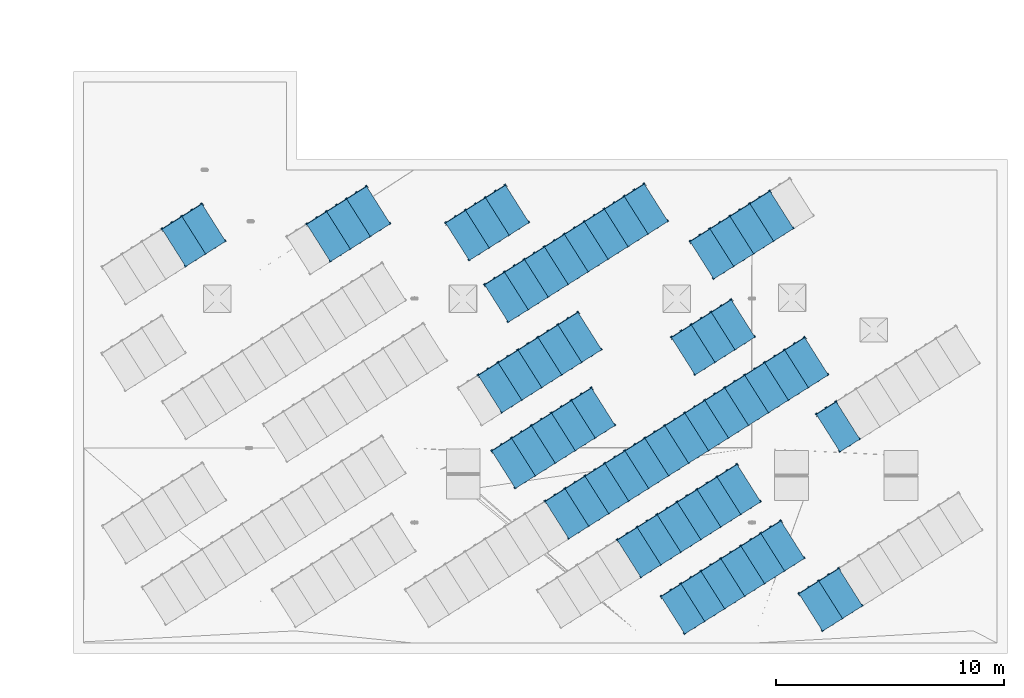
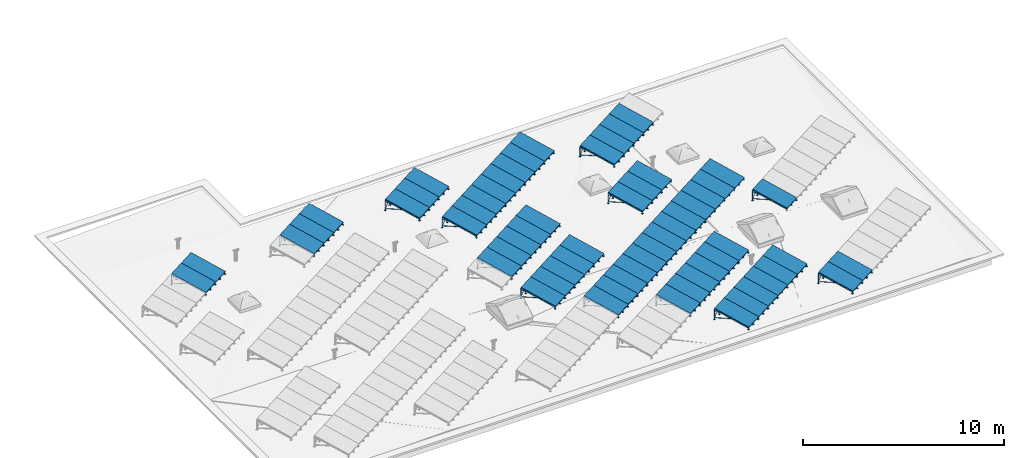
# One storey, part 2 of 9: 61 discrete accessories.
"""IFC2X3 building model written with IfcOpenShell, lengths in millimetres."""

from ifc_helpers import new_model, entity, si_unit, converted_unit, derived_unit, money_unit, direction, frame, origin_with_axes, place, context, subcontext, project, spatial, open_shell, faceted_brep, surface_model, source, transform, mapped, type_object, element, save


model = new_model("IFC2X3")

# Units and contexts
model_context = context("Model", 3, precision=0.01, world=origin_with_axes(), true_north=direction((0.0, 1.0)))
body_context = subcontext(model_context, "Body", "Model", "MODEL_VIEW")
ifc_project = project(units=[si_unit("LENGTHUNIT", "METRE", prefix="MILLI"), si_unit("AREAUNIT", "SQUARE_METRE"), si_unit("VOLUMEUNIT", "CUBIC_METRE"), converted_unit("PLANEANGLEUNIT", "DEGREE", entity("IfcPlaneAngleMeasure", 0.0174532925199), si_unit("PLANEANGLEUNIT", "RADIAN"), dimensions=[0, 0, 0, 0, 0, 0, 0]), si_unit("SOLIDANGLEUNIT", "STERADIAN"), money_unit("EUR"), converted_unit("TIMEUNIT", "Year", entity("IfcTimeMeasure", 31556926.0), si_unit("TIMEUNIT", "SECOND"), dimensions=[0, 0, 1, 0, 0, 0, 0]), si_unit("MASSUNIT", "GRAM", prefix="KILO"), si_unit("THERMODYNAMICTEMPERATUREUNIT", "DEGREE_CELSIUS"), si_unit("LUMINOUSINTENSITYUNIT", "LUMEN"), si_unit("ENERGYUNIT", "JOULE", prefix="MEGA"), derived_unit("THERMALCONDUCTANCEUNIT", [(si_unit("POWERUNIT", "WATT"), 1), (si_unit("LENGTHUNIT", "METRE"), -1), (si_unit("THERMODYNAMICTEMPERATUREUNIT", "KELVIN"), -1)]), derived_unit("SPECIFICHEATCAPACITYUNIT", [(si_unit("ENERGYUNIT", "JOULE"), 1), (si_unit("MASSUNIT", "GRAM", prefix="KILO"), -1), (si_unit("THERMODYNAMICTEMPERATUREUNIT", "KELVIN"), -1)]), derived_unit("MASSDENSITYUNIT", [(si_unit("MASSUNIT", "GRAM", prefix="KILO"), 1), (si_unit("VOLUMEUNIT", "CUBIC_METRE"), -1)])], contexts=[model_context])

# Site, building, storey
site_placement = place(None, origin_with_axes())
site = spatial("IfcSite", under=ifc_project, at=site_placement, Name="KIRDE 14, ELVA", CompositionType="ELEMENT")
building_placement = place(site_placement, origin_with_axes())
building = spatial("IfcBuilding", under=site, at=building_placement, Name="PPA ja Päästeameti ühishoone", CompositionType="ELEMENT")
storey_placement = place(building_placement, frame((0.0, 0.0, 7700.0), z_axis=(0.0, 0.0, 1.0), x_axis=(1.0, 0.0, 0.0)))
storey = spatial("IfcBuildingStorey", under=building, at=storey_placement, Name="Katusekorrus", CompositionType="ELEMENT", Elevation=7700.0)

# Discrete accessories
discrete_accessory_type = type_object("IfcDiscreteAccessoryType", Name="Solar Collector Flat Plate 24")
shared_shape = source(origin_with_axes(), body_context, "Body", "SurfaceModel", [
    surface_model("IfcShellBasedSurfaceModel", [(0.0, 1835.04380685, 600.253058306), (50.0, 1835.04380685, 600.253058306), (50.0, 1825.4978653, 604.20711676), (0.0, 1825.4978653, 604.20711676), (0.0, 1844.58974839, 604.20711676), (50.0, 1844.58974839, 604.20711676), (50.0, 1821.54380685, 613.753058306), (0.0, 1821.54380685, 613.753058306), (0.0, 1848.54380685, 613.753058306), (50.0, 1848.54380685, 613.753058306), (50.0, 1825.4978653, 623.298999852), (0.0, 1825.4978653, 623.298999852), (0.0, 1844.58974839, 623.298999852), (50.0, 1844.58974839, 623.298999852), (50.0, 1835.04380685, 627.253058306), (0.0, 1835.04380685, 627.253058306)], [open_shell([[[0, 1, 2, 3]], [[4, 5, 1, 0]], [[3, 2, 6, 7]], [[8, 9, 5, 4]], [[7, 6, 10, 11]], [[12, 13, 9, 8]], [[11, 10, 14, 15]], [[15, 14, 13, 12]]])]),
    surface_model("IfcShellBasedSurfaceModel", [(-1035.0, 1835.04380685, 627.253058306), (-1085.0, 1835.04380685, 627.253058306), (-1085.0, 1825.4978653, 623.298999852), (-1035.0, 1825.4978653, 623.298999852), (-1035.0, 1844.58974839, 623.298999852), (-1085.0, 1844.58974839, 623.298999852), (-1085.0, 1821.54380685, 613.753058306), (-1035.0, 1821.54380685, 613.753058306), (-1035.0, 1848.54380685, 613.753058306), (-1085.0, 1848.54380685, 613.753058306), (-1085.0, 1825.4978653, 604.20711676), (-1035.0, 1825.4978653, 604.20711676), (-1035.0, 1844.58974839, 604.20711676), (-1085.0, 1844.58974839, 604.20711676), (-1085.0, 1835.04380685, 600.253058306), (-1035.0, 1835.04380685, 600.253058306)], [open_shell([[[0, 1, 2, 3]], [[4, 5, 1, 0]], [[3, 2, 6, 7]], [[8, 9, 5, 4]], [[7, 6, 10, 11]], [[12, 13, 9, 8]], [[11, 10, 14, 15]], [[15, 14, 13, 12]]])]),
    faceted_brep([(0.0, -2.6969384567, 96.4852813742), (-1035.0, -2.6969384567, 96.4852813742), (-1035.0, 28.6956508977, 104.89690034), (0.0, 28.6956508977, 104.89690034), (0.0, -15.1202526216, 142.849721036), (-1035.0, -15.1202526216, 142.849721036), (-1035.0, 16.2723367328, 151.261340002), (0.0, 16.2723367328, 151.261340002)], [[[0, 1, 2, 3]], [[4, 5, 1, 0]], [[1, 5, 6, 2]], [[3, 2, 6, 7]], [[0, 3, 7, 4]], [[7, 6, 5, 4]]]),
    faceted_brep([(0.0, 1906.4554572, 608.041124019), (-1035.0, 1906.4554572, 608.041124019), (-1035.0, 1937.84804656, 616.452742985), (0.0, 1937.84804656, 616.452742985), (0.0, 1894.03214304, 654.405563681), (-1035.0, 1894.03214304, 654.405563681), (-1035.0, 1925.42473239, 662.817182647), (0.0, 1925.42473239, 662.817182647)], [[[0, 1, 2, 3]], [[4, 5, 1, 0]], [[1, 5, 6, 2]], [[3, 2, 6, 7]], [[0, 3, 7, 4]], [[7, 6, 5, 4]]]),
    faceted_brep([(-1002.5, 1925.42473239, 662.817182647), (-32.5, 1925.42473239, 662.817182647), (0.0, 1925.42473239, 662.817182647), (0.0, -15.1202526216, 142.849721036), (-1035.0, -15.1202526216, 142.849721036), (-1035.0, 1925.42473239, 662.817182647), (-1002.5, 1894.03214304, 654.405563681), (-1002.5, 16.2723367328, 151.261340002), (-32.5, 16.2723367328, 151.261340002), (-32.5, 1894.03214304, 654.405563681), (-1035.0, 1918.69543722, 687.931254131), (0.0, 1918.69543722, 687.931254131), (0.0, -21.8495477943, 167.96379252), (-1035.0, -21.8495477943, 167.96379252), (-1002.5, 1906.4554572, 608.041124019), (-1002.5, 28.6956508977, 104.89690034), (-32.5, 28.6956508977, 104.89690034), (-32.5, 1906.4554572, 608.041124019), (-70.0, 45.7652600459, 186.081125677), (-965.0, 45.7652600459, 186.081125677), (-965.0, 1851.08062938, 669.813920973), (-70.0, 1851.08062938, 669.813920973), (-70.0, 58.1885742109, 139.716686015), (-965.0, 58.1885742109, 139.716686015), (-965.0, 1863.50394355, 623.449481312), (-70.0, 1863.50394355, 623.449481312)], [[[0, 1, 2, 3, 4, 5], [6, 7, 8, 9]], [[0, 5, 10, 11, 2, 1]], [[11, 12, 3, 2]], [[13, 4, 3, 12]], [[10, 5, 4, 13]], [[14, 15, 7, 6]], [[15, 16, 8, 7]], [[9, 8, 16, 17]], [[6, 9, 17, 14]], [[13, 12, 11, 10], [18, 19, 20, 21]], [[17, 16, 15, 14]], [[18, 22, 23, 19]], [[19, 23, 24, 20]], [[20, 24, 25, 21]], [[21, 25, 22, 18]], [[24, 23, 22, 25]]]),
    faceted_brep([(-70.0, 47.0593552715, 181.251496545), (-70.0, 45.7652600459, 186.081125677), (-965.0, 45.7652600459, 186.081125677), (-965.0, 47.0593552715, 181.251496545), (-70.0, 1852.37472461, 664.984291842), (-70.0, 1851.08062938, 669.813920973), (-965.0, 1851.08062938, 669.813920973), (-965.0, 1852.37472461, 664.984291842)], [[[0, 1, 2, 3]], [[4, 5, 1, 0]], [[1, 5, 6, 2]], [[3, 2, 6, 7]], [[0, 3, 7, 4]], [[7, 6, 5, 4]]]),
    faceted_brep([(-32.5, 1823.3524639, 620.503058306), (-32.5, 1831.54974974, 626.793056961), (-32.5, 1841.79380685, 625.444401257), (-32.5, 1848.0838055, 617.247115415), (-32.5, 1846.7351498, 607.003058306), (-32.5, 1838.53786396, 600.713059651), (-32.5, 1828.29380685, 602.061715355), (-32.5, 1822.00380819, 610.259001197), (0.0, 1823.3524639, 620.503058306), (0.0, 1831.54974974, 626.793056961), (0.0, 1841.79380685, 625.444401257), (0.0, 1848.0838055, 617.247115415), (0.0, 1846.7351498, 607.003058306), (0.0, 1838.53786396, 600.713059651), (0.0, 1828.29380685, 602.061715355), (0.0, 1822.00380819, 610.259001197)], [[[0, 1, 2, 3, 4, 5, 6, 7]], [[0, 8, 9, 1]], [[1, 9, 10, 2]], [[2, 10, 11, 3]], [[3, 11, 12, 4]], [[4, 12, 13, 5]], [[5, 13, 14, 6]], [[6, 14, 15, 7]], [[7, 15, 8, 0]], [[8, 15, 14, 13, 12, 11, 10, 9]]]),
    faceted_brep([(-1002.5, 1823.3524639, 620.503058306), (-1002.5, 1822.00380819, 610.259001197), (-1002.5, 1828.29380685, 602.061715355), (-1002.5, 1838.53786396, 600.713059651), (-1002.5, 1846.7351498, 607.003058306), (-1002.5, 1848.0838055, 617.247115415), (-1002.5, 1841.79380685, 625.444401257), (-1002.5, 1831.54974974, 626.793056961), (-1035.0, 1823.3524639, 620.503058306), (-1035.0, 1822.00380819, 610.259001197), (-1035.0, 1828.29380685, 602.061715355), (-1035.0, 1838.53786396, 600.713059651), (-1035.0, 1846.7351498, 607.003058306), (-1035.0, 1848.0838055, 617.247115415), (-1035.0, 1841.79380685, 625.444401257), (-1035.0, 1831.54974974, 626.793056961)], [[[0, 1, 2, 3, 4, 5, 6, 7]], [[1, 0, 8, 9]], [[2, 1, 9, 10]], [[3, 2, 10, 11]], [[4, 3, 11, 12]], [[5, 4, 12, 13]], [[6, 5, 13, 14]], [[7, 6, 14, 15]], [[0, 7, 15, 8]], [[8, 15, 14, 13, 12, 11, 10, 9]]]),
    faceted_brep([(-70.0, 58.7062123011, 137.784834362), (-70.0, 54.0474694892, 155.171499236), (-965.0, 54.0474694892, 155.171499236), (-965.0, 58.7062123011, 137.784834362), (-70.0, 1864.02158164, 621.517629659), (-70.0, 1859.36283882, 638.904294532), (-965.0, 1859.36283882, 638.904294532), (-140.0, 121.662277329, 173.288832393), (-895.0, 121.662277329, 173.288832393), (-895.0, 1791.74803098, 620.786961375), (-140.0, 1791.74803098, 620.786961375), (-965.0, 1864.02158164, 621.517629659), (-140.0, 126.321020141, 155.90216752), (-140.0, 1796.4067738, 603.400296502), (-895.0, 1796.4067738, 603.400296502), (-895.0, 126.321020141, 155.90216752)], [[[0, 1, 2, 3]], [[4, 5, 1, 0]], [[1, 5, 6, 2], [7, 8, 9, 10]], [[3, 2, 6, 11]], [[0, 3, 11, 4], [12, 13, 14, 15]], [[11, 6, 5, 4]], [[15, 8, 7, 12]], [[14, 9, 8, 15]], [[13, 10, 9, 14]], [[12, 7, 10, 13]]]),
    surface_model("IfcShellBasedSurfaceModel", [(-140.0, 125.026924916, 160.731796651), (-895.0, 125.026924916, 160.731796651), (-895.0, 1795.11267857, 608.229925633), (-140.0, 1795.11267857, 608.229925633)], [open_shell([[[0, 1, 2, 3]]])]),
    faceted_brep([(0.0, 1944.05970364, 593.270523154), (0.0, 3.51471862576, 73.3030615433), (-24.0, 3.51471862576, 73.3030615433), (-24.0, 1944.05970364, 593.270523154), (0.0, 1937.84804656, 616.452742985), (0.0, -2.6969384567, 96.4852813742), (-24.0, -2.6969384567, 96.4852813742), (-24.0, 1937.84804656, 616.452742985)], [[[0, 1, 2, 3]], [[4, 5, 1, 0]], [[1, 5, 6, 2]], [[3, 2, 6, 7]], [[0, 3, 7, 4]], [[7, 6, 5, 4]]]),
    faceted_brep([(-505.5, 1944.05970364, 593.270523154), (-505.5, 3.51471862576, 73.3030615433), (-529.5, 3.51471862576, 73.3030615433), (-529.5, 1944.05970364, 593.270523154), (-505.5, 1937.84804656, 616.452742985), (-505.5, -2.6969384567, 96.4852813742), (-529.5, -2.6969384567, 96.4852813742), (-529.5, 1937.84804656, 616.452742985)], [[[0, 1, 2, 3]], [[4, 5, 1, 0]], [[1, 5, 6, 2]], [[3, 2, 6, 7]], [[0, 3, 7, 4]], [[7, 6, 5, 4]]]),
    faceted_brep([(-1011.0, 1944.05970364, 593.270523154), (-1011.0, 3.51471862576, 73.3030615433), (-1035.0, 3.51471862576, 73.3030615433), (-1035.0, 1944.05970364, 593.270523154), (-1011.0, 1937.84804656, 616.452742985), (-1011.0, -2.6969384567, 96.4852813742), (-1035.0, -2.6969384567, 96.4852813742), (-1035.0, 1937.84804656, 616.452742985)], [[[0, 1, 2, 3]], [[4, 5, 1, 0]], [[1, 5, 6, 2]], [[3, 2, 6, 7]], [[0, 3, 7, 4]], [[7, 6, 5, 4]]]),
    faceted_brep([(0.0, 24.0, 52.0), (0.0, 24.0, 88.0), (5.0, 24.0, 88.0), (5.0, 24.0, 5.0), (-29.0, 24.0, 5.0), (-29.0, 24.0, 88.0), (-24.0, 24.0, 88.0), (-24.0, 24.0, 52.0), (0.0, 0.0, 52.0), (0.0, 0.0, 88.0), (0.0, 3.51471862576, 96.4852813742), (0.0, 12.0, 100.0), (0.0, 20.4852813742, 96.4852813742), (5.0, 20.4852813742, 96.4852813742), (5.0, 12.0, 100.0), (5.0, 3.51471862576, 96.4852813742), (5.0, 0.0, 88.0), (5.0, 0.0, 5.0), (-29.0, 0.0, 5.0), (-29.0, 12.0, 100.0), (-29.0, 20.4852813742, 96.4852813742), (-29.0, 0.0, 88.0), (-29.0, 3.51471862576, 96.4852813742), (-24.0, 20.4852813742, 96.4852813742), (-24.0, 12.0, 100.0), (-24.0, 3.51471862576, 96.4852813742), (-24.0, 0.0, 88.0), (-24.0, 0.0, 52.0)], [[[0, 1, 2, 3, 4, 5, 6, 7]], [[0, 8, 9, 10, 11, 12, 1]], [[12, 13, 2, 1]], [[13, 14, 15, 16, 17, 3, 2]], [[3, 17, 18, 4]], [[19, 20, 5, 4, 18, 21, 22]], [[6, 5, 20, 23]], [[23, 24, 25, 26, 27, 7, 6]], [[7, 27, 8, 0]], [[8, 27, 26, 21, 18, 17, 16, 9]], [[9, 16, 15, 10]], [[10, 15, 14, 11]], [[11, 14, 13, 12]], [[23, 20, 19, 24]], [[25, 22, 21, 26]], [[24, 19, 22, 25]]]),
    faceted_brep([(38.0, -38.0, 0.0), (38.0, -38.0, 5.0), (-62.0, -38.0, 5.0), (-62.0, -38.0, 0.0), (38.0, 62.0, 0.0), (38.0, 62.0, 5.0), (-62.0, 62.0, 5.0), (-62.0, 62.0, 0.0)], [[[0, 1, 2, 3]], [[4, 5, 1, 0]], [[1, 5, 6, 2]], [[3, 2, 6, 7]], [[0, 3, 7, 4]], [[7, 6, 5, 4]]]),
    faceted_brep([(-505.5, 24.0, 52.0), (-505.5, 24.0, 88.0), (-500.5, 24.0, 88.0), (-500.5, 24.0, 5.0), (-534.5, 24.0, 5.0), (-534.5, 24.0, 88.0), (-529.5, 24.0, 88.0), (-529.5, 24.0, 52.0), (-505.5, 0.0, 52.0), (-505.5, 0.0, 88.0), (-505.5, 3.51471862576, 96.4852813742), (-505.5, 12.0, 100.0), (-505.5, 20.4852813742, 96.4852813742), (-500.5, 20.4852813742, 96.4852813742), (-500.5, 12.0, 100.0), (-500.5, 3.51471862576, 96.4852813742), (-500.5, 0.0, 88.0), (-500.5, 0.0, 5.0), (-534.5, 0.0, 5.0), (-534.5, 12.0, 100.0), (-534.5, 20.4852813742, 96.4852813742), (-534.5, 0.0, 88.0), (-534.5, 3.51471862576, 96.4852813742), (-529.5, 20.4852813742, 96.4852813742), (-529.5, 12.0, 100.0), (-529.5, 3.51471862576, 96.4852813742), (-529.5, 0.0, 88.0), (-529.5, 0.0, 52.0)], [[[0, 1, 2, 3, 4, 5, 6, 7]], [[0, 8, 9, 10, 11, 12, 1]], [[12, 13, 2, 1]], [[13, 14, 15, 16, 17, 3, 2]], [[3, 17, 18, 4]], [[19, 20, 5, 4, 18, 21, 22]], [[6, 5, 20, 23]], [[23, 24, 25, 26, 27, 7, 6]], [[7, 27, 8, 0]], [[8, 27, 26, 21, 18, 17, 16, 9]], [[9, 16, 15, 10]], [[10, 15, 14, 11]], [[11, 14, 13, 12]], [[23, 20, 19, 24]], [[25, 22, 21, 26]], [[24, 19, 22, 25]]]),
    faceted_brep([(-467.5, -38.0, 0.0), (-467.5, -38.0, 5.0), (-567.5, -38.0, 5.0), (-567.5, -38.0, 0.0), (-467.5, 62.0, 0.0), (-467.5, 62.0, 5.0), (-567.5, 62.0, 5.0), (-567.5, 62.0, 0.0)], [[[0, 1, 2, 3]], [[4, 5, 1, 0]], [[1, 5, 6, 2]], [[3, 2, 6, 7]], [[0, 3, 7, 4]], [[7, 6, 5, 4]]]),
    faceted_brep([(-1011.0, 24.0, 52.0), (-1011.0, 24.0, 88.0), (-1006.0, 24.0, 88.0), (-1006.0, 24.0, 5.0), (-1040.0, 24.0, 5.0), (-1040.0, 24.0, 88.0), (-1035.0, 24.0, 88.0), (-1035.0, 24.0, 52.0), (-1011.0, 0.0, 52.0), (-1011.0, 0.0, 88.0), (-1011.0, 3.51471862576, 96.4852813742), (-1011.0, 12.0, 100.0), (-1011.0, 20.4852813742, 96.4852813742), (-1006.0, 20.4852813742, 96.4852813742), (-1006.0, 12.0, 100.0), (-1006.0, 3.51471862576, 96.4852813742), (-1006.0, 0.0, 88.0), (-1006.0, 0.0, 5.0), (-1040.0, 0.0, 5.0), (-1040.0, 12.0, 100.0), (-1040.0, 20.4852813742, 96.4852813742), (-1040.0, 0.0, 88.0), (-1040.0, 3.51471862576, 96.4852813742), (-1035.0, 20.4852813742, 96.4852813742), (-1035.0, 12.0, 100.0), (-1035.0, 3.51471862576, 96.4852813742), (-1035.0, 0.0, 88.0), (-1035.0, 0.0, 52.0)], [[[0, 1, 2, 3, 4, 5, 6, 7]], [[0, 8, 9, 10, 11, 12, 1]], [[12, 13, 2, 1]], [[13, 14, 15, 16, 17, 3, 2]], [[3, 17, 18, 4]], [[19, 20, 5, 4, 18, 21, 22]], [[6, 5, 20, 23]], [[23, 24, 25, 26, 27, 7, 6]], [[7, 27, 8, 0]], [[8, 27, 26, 21, 18, 17, 16, 9]], [[9, 16, 15, 10]], [[10, 15, 14, 11]], [[11, 14, 13, 12]], [[23, 20, 19, 24]], [[25, 22, 21, 26]], [[24, 19, 22, 25]]]),
    faceted_brep([(-973.0, -38.0, 0.0), (-973.0, -38.0, 5.0), (-1073.0, -38.0, 5.0), (-1073.0, -38.0, 0.0), (-973.0, 62.0, 0.0), (-973.0, 62.0, 5.0), (-1073.0, 62.0, 5.0), (-1073.0, 62.0, 0.0)], [[[0, 1, 2, 3]], [[4, 5, 1, 0]], [[1, 5, 6, 2]], [[3, 2, 6, 7]], [[0, 3, 7, 4]], [[7, 6, 5, 4]]]),
    faceted_brep([(0.0, 1941.36276518, 565.755804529), (0.0, 1941.36276518, 601.755804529), (5.0, 1941.36276518, 601.755804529), (5.0, 1941.36276518, 5.0), (-29.0, 1941.36276518, 5.0), (-29.0, 1941.36276518, 601.755804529), (-24.0, 1941.36276518, 601.755804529), (-24.0, 1941.36276518, 565.755804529), (0.0, 1917.36276518, 565.755804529), (0.0, 1917.36276518, 601.755804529), (0.0, 1920.87748381, 610.241085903), (0.0, 1929.36276518, 613.755804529), (0.0, 1937.84804656, 610.241085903), (5.0, 1937.84804656, 610.241085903), (5.0, 1929.36276518, 613.755804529), (5.0, 1920.87748381, 610.241085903), (5.0, 1917.36276518, 601.755804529), (5.0, 1917.36276518, 5.0), (-29.0, 1917.36276518, 5.0), (-29.0, 1929.36276518, 613.755804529), (-29.0, 1937.84804656, 610.241085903), (-29.0, 1917.36276518, 601.755804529), (-29.0, 1920.87748381, 610.241085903), (-24.0, 1937.84804656, 610.241085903), (-24.0, 1929.36276518, 613.755804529), (-24.0, 1920.87748381, 610.241085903), (-24.0, 1917.36276518, 601.755804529), (-24.0, 1917.36276518, 565.755804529)], [[[0, 1, 2, 3, 4, 5, 6, 7]], [[0, 8, 9, 10, 11, 12, 1]], [[12, 13, 2, 1]], [[13, 14, 15, 16, 17, 3, 2]], [[3, 17, 18, 4]], [[19, 20, 5, 4, 18, 21, 22]], [[6, 5, 20, 23]], [[23, 24, 25, 26, 27, 7, 6]], [[7, 27, 8, 0]], [[8, 27, 26, 21, 18, 17, 16, 9]], [[9, 16, 15, 10]], [[10, 15, 14, 11]], [[11, 14, 13, 12]], [[23, 20, 19, 24]], [[25, 22, 21, 26]], [[24, 19, 22, 25]]]),
    faceted_brep([(38.0, 1879.36276518, 0.0), (38.0, 1879.36276518, 5.0), (-62.0, 1879.36276518, 5.0), (-62.0, 1879.36276518, 0.0), (38.0, 1979.36276518, 0.0), (38.0, 1979.36276518, 5.0), (-62.0, 1979.36276518, 5.0), (-62.0, 1979.36276518, 0.0)], [[[0, 1, 2, 3]], [[4, 5, 1, 0]], [[1, 5, 6, 2]], [[3, 2, 6, 7]], [[0, 3, 7, 4]], [[7, 6, 5, 4]]]),
    faceted_brep([(-505.5, 1941.36276518, 565.755804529), (-505.5, 1941.36276518, 601.755804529), (-500.5, 1941.36276518, 601.755804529), (-500.5, 1941.36276518, 5.0), (-534.5, 1941.36276518, 5.0), (-534.5, 1941.36276518, 601.755804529), (-529.5, 1941.36276518, 601.755804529), (-529.5, 1941.36276518, 565.755804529), (-505.5, 1917.36276518, 565.755804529), (-505.5, 1917.36276518, 601.755804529), (-505.5, 1920.87748381, 610.241085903), (-505.5, 1929.36276518, 613.755804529), (-505.5, 1937.84804656, 610.241085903), (-500.5, 1937.84804656, 610.241085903), (-500.5, 1929.36276518, 613.755804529), (-500.5, 1920.87748381, 610.241085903), (-500.5, 1917.36276518, 601.755804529), (-500.5, 1917.36276518, 5.0), (-534.5, 1917.36276518, 5.0), (-534.5, 1929.36276518, 613.755804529), (-534.5, 1937.84804656, 610.241085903), (-534.5, 1917.36276518, 601.755804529), (-534.5, 1920.87748381, 610.241085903), (-529.5, 1937.84804656, 610.241085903), (-529.5, 1929.36276518, 613.755804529), (-529.5, 1920.87748381, 610.241085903), (-529.5, 1917.36276518, 601.755804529), (-529.5, 1917.36276518, 565.755804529)], [[[0, 1, 2, 3, 4, 5, 6, 7]], [[0, 8, 9, 10, 11, 12, 1]], [[12, 13, 2, 1]], [[13, 14, 15, 16, 17, 3, 2]], [[3, 17, 18, 4]], [[19, 20, 5, 4, 18, 21, 22]], [[6, 5, 20, 23]], [[23, 24, 25, 26, 27, 7, 6]], [[7, 27, 8, 0]], [[8, 27, 26, 21, 18, 17, 16, 9]], [[9, 16, 15, 10]], [[10, 15, 14, 11]], [[11, 14, 13, 12]], [[23, 20, 19, 24]], [[25, 22, 21, 26]], [[24, 19, 22, 25]]]),
    faceted_brep([(-467.5, 1879.36276518, 0.0), (-467.5, 1879.36276518, 5.0), (-567.5, 1879.36276518, 5.0), (-567.5, 1879.36276518, 0.0), (-467.5, 1979.36276518, 0.0), (-467.5, 1979.36276518, 5.0), (-567.5, 1979.36276518, 5.0), (-567.5, 1979.36276518, 0.0)], [[[0, 1, 2, 3]], [[4, 5, 1, 0]], [[1, 5, 6, 2]], [[3, 2, 6, 7]], [[0, 3, 7, 4]], [[7, 6, 5, 4]]]),
    faceted_brep([(-1011.0, 1941.36276518, 565.755804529), (-1011.0, 1941.36276518, 601.755804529), (-1006.0, 1941.36276518, 601.755804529), (-1006.0, 1941.36276518, 5.0), (-1040.0, 1941.36276518, 5.0), (-1040.0, 1941.36276518, 601.755804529), (-1035.0, 1941.36276518, 601.755804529), (-1035.0, 1941.36276518, 565.755804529), (-1011.0, 1917.36276518, 565.755804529), (-1011.0, 1917.36276518, 601.755804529), (-1011.0, 1920.87748381, 610.241085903), (-1011.0, 1929.36276518, 613.755804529), (-1011.0, 1937.84804656, 610.241085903), (-1006.0, 1937.84804656, 610.241085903), (-1006.0, 1929.36276518, 613.755804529), (-1006.0, 1920.87748381, 610.241085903), (-1006.0, 1917.36276518, 601.755804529), (-1006.0, 1917.36276518, 5.0), (-1040.0, 1917.36276518, 5.0), (-1040.0, 1929.36276518, 613.755804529), (-1040.0, 1937.84804656, 610.241085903), (-1040.0, 1917.36276518, 601.755804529), (-1040.0, 1920.87748381, 610.241085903), (-1035.0, 1937.84804656, 610.241085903), (-1035.0, 1929.36276518, 613.755804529), (-1035.0, 1920.87748381, 610.241085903), (-1035.0, 1917.36276518, 601.755804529), (-1035.0, 1917.36276518, 565.755804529)], [[[0, 1, 2, 3, 4, 5, 6, 7]], [[0, 8, 9, 10, 11, 12, 1]], [[12, 13, 2, 1]], [[13, 14, 15, 16, 17, 3, 2]], [[3, 17, 18, 4]], [[19, 20, 5, 4, 18, 21, 22]], [[6, 5, 20, 23]], [[23, 24, 25, 26, 27, 7, 6]], [[7, 27, 8, 0]], [[8, 27, 26, 21, 18, 17, 16, 9]], [[9, 16, 15, 10]], [[10, 15, 14, 11]], [[11, 14, 13, 12]], [[23, 20, 19, 24]], [[25, 22, 21, 26]], [[24, 19, 22, 25]]]),
    faceted_brep([(-973.0, 1879.36276518, 0.0), (-973.0, 1879.36276518, 5.0), (-1073.0, 1879.36276518, 5.0), (-1073.0, 1879.36276518, 0.0), (-973.0, 1979.36276518, 0.0), (-973.0, 1979.36276518, 5.0), (-1073.0, 1979.36276518, 5.0), (-1073.0, 1979.36276518, 0.0)], [[[0, 1, 2, 3]], [[4, 5, 1, 0]], [[1, 5, 6, 2]], [[3, 2, 6, 7]], [[0, 3, 7, 4]], [[7, 6, 5, 4]]]),
    faceted_brep([(-24.0, 1917.36276518, 90.7920761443), (0.0, 1917.36276518, 90.7920761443), (0.0, 993.073687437, 338.454588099), (-24.0, 993.073687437, 338.454588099), (-24.0, 1917.36276518, 115.638704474), (0.0, 1917.36276518, 115.638704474), (0.0, 1039.4381271, 350.877902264), (-24.0, 1039.4381271, 350.877902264)], [[[0, 1, 2, 3]], [[1, 0, 4, 5]], [[1, 5, 6, 2]], [[2, 6, 7, 3]], [[4, 0, 3, 7]], [[5, 4, 7, 6]]]),
    faceted_brep([(-529.5, 1917.36276518, 90.7920761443), (-505.5, 1917.36276518, 90.7920761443), (-505.5, 993.073687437, 338.454588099), (-529.5, 993.073687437, 338.454588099), (-529.5, 1917.36276518, 115.638704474), (-505.5, 1917.36276518, 115.638704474), (-505.5, 1039.4381271, 350.877902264), (-529.5, 1039.4381271, 350.877902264)], [[[0, 1, 2, 3]], [[1, 0, 4, 5]], [[1, 5, 6, 2]], [[2, 6, 7, 3]], [[4, 0, 3, 7]], [[5, 4, 7, 6]]]),
    faceted_brep([(-1035.0, 1917.36276518, 90.7920761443), (-1011.0, 1917.36276518, 90.7920761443), (-1011.0, 993.073687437, 338.454588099), (-1035.0, 993.073687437, 338.454588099), (-1035.0, 1917.36276518, 115.638704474), (-1011.0, 1917.36276518, 115.638704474), (-1011.0, 1039.4381271, 350.877902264), (-1035.0, 1039.4381271, 350.877902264)], [[[0, 1, 2, 3]], [[1, 0, 4, 5]], [[1, 5, 6, 2]], [[2, 6, 7, 3]], [[4, 0, 3, 7]], [[5, 4, 7, 6]]]),
    faceted_brep([(-29.0, 1929.36276518, 98.4074259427), (-29.0, 1929.36276518, 129.421846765), (-500.5, 1929.36276518, 515.348378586), (-500.5, 1929.36276518, 484.333957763), (-29.0, 1941.36276518, 98.4074259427), (-29.0, 1941.36276518, 129.421846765), (-500.5, 1941.36276518, 515.348378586), (-500.5, 1941.36276518, 484.333957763)], [[[0, 1, 2, 3]], [[1, 0, 4, 5]], [[1, 5, 6, 2]], [[2, 6, 7, 3]], [[4, 0, 3, 7]], [[5, 4, 7, 6]]]),
    faceted_brep([(-500.5, 1917.36276518, 129.421846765), (-500.5, 1917.36276518, 98.4074259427), (-29.0, 1917.36276518, 484.333957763), (-29.0, 1917.36276518, 515.348378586), (-500.5, 1929.36276518, 129.421846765), (-500.5, 1929.36276518, 98.4074259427), (-29.0, 1929.36276518, 484.333957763), (-29.0, 1929.36276518, 515.348378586)], [[[0, 1, 2, 3]], [[0, 4, 5, 1]], [[1, 5, 6, 2]], [[3, 2, 6, 7]], [[4, 0, 3, 7]], [[5, 4, 7, 6]]]),
    faceted_brep([(-534.5, 1929.36276518, 98.4074259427), (-534.5, 1929.36276518, 129.421846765), (-1006.0, 1929.36276518, 515.348378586), (-1006.0, 1929.36276518, 484.333957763), (-534.5, 1941.36276518, 98.4074259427), (-534.5, 1941.36276518, 129.421846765), (-1006.0, 1941.36276518, 515.348378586), (-1006.0, 1941.36276518, 484.333957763)], [[[0, 1, 2, 3]], [[1, 0, 4, 5]], [[1, 5, 6, 2]], [[2, 6, 7, 3]], [[4, 0, 3, 7]], [[5, 4, 7, 6]]]),
    faceted_brep([(-1006.0, 1917.36276518, 129.421846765), (-1006.0, 1917.36276518, 98.4074259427), (-534.5, 1917.36276518, 484.333957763), (-534.5, 1917.36276518, 515.348378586), (-1006.0, 1929.36276518, 129.421846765), (-1006.0, 1929.36276518, 98.4074259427), (-534.5, 1929.36276518, 484.333957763), (-534.5, 1929.36276518, 515.348378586)], [[[0, 1, 2, 3]], [[0, 4, 5, 1]], [[1, 5, 6, 2]], [[3, 2, 6, 7]], [[4, 0, 3, 7]], [[5, 4, 7, 6]]]),
])
for number, where, z_axis, x_axis in (
    (1, (31586.1518254, 3733.03196986, 0.0), (0.0, 0.0, 1.0), (0.845542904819, 0.533907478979, 0.0)),
    (2, (13428.5998276, 18396.1745466, 0.0), (0.0, 0.0, 1.0), (0.845542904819, 0.533907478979, 0.0)),
    (3, (22128.7634865, 5140.81822214, 0.0), (0.0, 0.0, 1.0), (0.845542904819, 0.533907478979, 0.0)),
    (4, (19785.8697973, 7351.19518422, 0.0), (0.0, 0.0, 1.0), (0.845542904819, 0.533907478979, 0.0)),
    (5, (29129.8587398, 9561.57214817, 0.0), (0.0, 0.0, 1.0), (0.845542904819, 0.533907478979, 0.0)),
    (6, (28254.7218325, 9008.97790648, 0.0), (0.0, 0.0, 1.0), (0.845542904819, 0.533907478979, 0.0)),
    (7, (27379.5849258, 8456.38366573, 0.0), (0.0, 0.0, 1.0), (0.845542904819, 0.533907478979, 0.0)),
    (8, (20661.006704, 7903.78942497, 0.0), (0.0, 0.0, 1.0), (0.845542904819, 0.533907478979, 0.0)),
    (9, (29666.7739575, 6210.83269448, 0.0), (0.0, 0.0, 1.0), (0.845542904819, 0.533907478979, 0.0)),
    (10, (27210.4672924, 970.060767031, 0.0), (0.0, 0.0, 1.0), (0.845542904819, 0.533907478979, 0.0)),
    (11, (26504.4480195, 7903.78942497, 0.0), (0.0, 0.0, 1.0), (0.845542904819, 0.533907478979, 0.0)),
    (12, (31755.2694588, 11219.3548686, 0.0), (0.0, 0.0, 1.0), (0.845542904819, 0.533907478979, 0.0)),
    (13, (30880.1325516, 10666.7606278, 0.0), (0.0, 0.0, 1.0), (0.845542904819, 0.533907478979, 0.0)),
    (14, (5335.16749726, 17075.4880651, 0.0), (0.0, 0.0, 1.0), (0.845542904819, 0.533907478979, 0.0)),
    (15, (23851.4514812, 17397.9336793, 0.0), (0.0, 0.0, 1.0), (0.845542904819, 0.533907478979, 0.0)),
    (16, (29835.8780124, 2627.84348835, 0.0), (0.0, 0.0, 1.0), (0.845542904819, 0.533907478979, 0.0)),
    (17, (11678.3260153, 17290.986066, 0.0), (0.0, 0.0, 1.0), (0.845542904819, 0.533907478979, 0.0)),
    (18, (27041.3632378, 4553.04997221, 0.0), (0.0, 0.0, 1.0), (0.845542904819, 0.533907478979, 0.0)),
    (19, (28791.6370508, 5658.23845372, 0.0), (0.0, 0.0, 1.0), (0.845542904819, 0.533907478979, 0.0)),
    (20, (27916.5001445, 5105.64421297, 0.0), (0.0, 0.0, 1.0), (0.845542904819, 0.533907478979, 0.0)),
    (21, (28960.7411057, 2075.24924759, 0.0), (0.0, 0.0, 1.0), (0.845542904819, 0.533907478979, 0.0)),
    (22, (23003.9003923, 5693.4124629, 0.0), (0.0, 0.0, 1.0), (0.845542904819, 0.533907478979, 0.0)),
    (23, (20350.9038557, 15187.5567163, 0.0), (0.0, 0.0, 1.0), (0.845542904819, 0.533907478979, 0.0)),
    (24, (28085.6041996, 1522.65500779, 0.0), (0.0, 0.0, 1.0), (0.845542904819, 0.533907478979, 0.0)),
    (25, (25629.3111128, 7351.19518422, 0.0), (0.0, 0.0, 1.0), (0.845542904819, 0.533907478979, 0.0)),
    (26, (24754.1742068, 6798.60094441, 0.0), (0.0, 0.0, 1.0), (0.845542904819, 0.533907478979, 0.0)),
    (27, (23879.0372995, 6246.00670365, 0.0), (0.0, 0.0, 1.0), (0.845542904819, 0.533907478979, 0.0)),
    (28, (32630.4063653, 11771.9491093, 0.0), (0.0, 0.0, 1.0), (0.845542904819, 0.533907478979, 0.0)),
    (29, (29412.3757696, 13429.7318306, 0.0), (0.0, 0.0, 1.0), (0.845542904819, 0.533907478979, 0.0)),
    (30, (30711.0149187, 3180.4377291, 0.0), (0.0, 0.0, 1.0), (0.845542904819, 0.533907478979, 0.0)),
    (31, (28537.2388633, 12877.1375899, 0.0), (0.0, 0.0, 1.0), (0.845542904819, 0.533907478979, 0.0)),
    (32, (27662.1019566, 12324.5433491, 0.0), (0.0, 0.0, 1.0), (0.845542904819, 0.533907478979, 0.0)),
    (33, (18640.0256552, 17897.054112, 0.0), (0.0, 0.0, 1.0), (0.845542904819, 0.533907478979, 0.0)),
    (34, (25601.7252959, 18503.1221618, 0.0), (0.0, 0.0, 1.0), (0.845542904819, 0.533907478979, 0.0)),
    (35, (21536.1436103, 8456.38366573, 0.0), (0.0, 0.0, 1.0), (0.845542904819, 0.533907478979, 0.0)),
    (36, (24726.5883877, 17950.5279201, 0.0), (0.0, 0.0, 1.0), (0.845542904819, 0.533907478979, 0.0)),
    (37, (23286.4174243, 9561.57214817, 0.0), (0.0, 0.0, 1.0), (0.845542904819, 0.533907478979, 0.0)),
    (38, (22411.2805171, 9008.97790648, 0.0), (0.0, 0.0, 1.0), (0.845542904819, 0.533907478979, 0.0)),
    (39, (30004.9956446, 10114.1663871, 0.0), (0.0, 0.0, 1.0), (0.845542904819, 0.533907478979, 0.0)),
    (40, (19515.1625615, 18449.6483518, 0.0), (0.0, 0.0, 1.0), (0.845542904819, 0.533907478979, 0.0)),
    (41, (30230.9670016, 17636.3888576, 0.0), (0.0, 0.0, 1.0), (0.845542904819, 0.533907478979, 0.0)),
    (42, (31106.1039065, 18188.9830965, 0.0), (0.0, 0.0, 1.0), (0.845542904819, 0.533907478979, 0.0)),
    (43, (33251.8668219, 1095.05900153, 0.0), (0.0, 0.0, 1.0), (0.845542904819, 0.533907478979, 0.0)),
    (44, (22101.1776673, 16292.7451978, 0.0), (0.0, 0.0, 1.0), (0.845542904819, 0.533907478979, 0.0)),
    (45, (22976.3145754, 16845.3394395, 0.0), (0.0, 0.0, 1.0), (0.845542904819, 0.533907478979, 0.0)),
    (46, (21226.0407619, 15740.1509561, 0.0), (0.0, 0.0, 1.0), (0.845542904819, 0.533907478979, 0.0)),
    (47, (19475.7669475, 14634.9624765, 0.0), (0.0, 0.0, 1.0), (0.845542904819, 0.533907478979, 0.0)),
    (48, (34127.0037291, 1647.65324322, 0.0), (0.0, 0.0, 1.0), (0.845542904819, 0.533907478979, 0.0)),
    (49, (20068.3868279, 11219.3548686, 0.0), (0.0, 0.0, 1.0), (0.845542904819, 0.533907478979, 0.0)),
    (50, (20943.5237351, 11771.9491093, 0.0), (0.0, 0.0, 1.0), (0.845542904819, 0.533907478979, 0.0)),
    (51, (21818.6606411, 12324.5433491, 0.0), (0.0, 0.0, 1.0), (0.845542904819, 0.533907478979, 0.0)),
    (52, (22693.7975479, 12877.1375899, 0.0), (0.0, 0.0, 1.0), (0.845542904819, 0.533907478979, 0.0)),
    (53, (6210.30440375, 17628.0823058, 0.0), (0.0, 0.0, 1.0), (0.845542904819, 0.533907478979, 0.0)),
    (54, (12553.4629211, 17843.5803058, 0.0), (0.0, 0.0, 1.0), (0.845542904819, 0.533907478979, 0.0)),
    (55, (28480.6931877, 16531.2003752, 0.0), (0.0, 0.0, 1.0), (0.845542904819, 0.533907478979, 0.0)),
    (56, (29355.8300944, 17083.7946159, 0.0), (0.0, 0.0, 1.0), (0.845542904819, 0.533907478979, 0.0)),
    (57, (17764.8887471, 17344.4598722, 0.0), (0.0, 0.0, 1.0), (0.845542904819, 0.533907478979, 0.0)),
    (58, (19193.2499207, 10666.7606278, 0.0), (0.0, 0.0, 1.0), (0.845542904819, 0.533907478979, 0.0)),
    (59, (34012.8644886, 8955.11713553, 0.0), (0.0, 0.0, 1.0), (0.845542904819, 0.533907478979, 0.0)),
    (60, (25291.0894245, 3447.86149165, 0.0), (0.0, 0.0, 1.0), (0.845542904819, 0.533907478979, 0.0)),
    (61, (26166.2263317, 4000.4557324, 0.0), (0.0, 0.0, 1.0), (0.845542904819, 0.533907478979, 0.0)),
):
    element("IfcDiscreteAccessory", number, at=place(storey_placement, frame(where, z_axis=z_axis, x_axis=x_axis)), inside=storey, type_object=discrete_accessory_type, Name="Panasonic WH-UX-09-DE8-1", context=body_context, shape_type="MappedRepresentation", body=[
        mapped(shared_shape, transform((0.0, 0.0, 0.0))),
    ])

save(model, "model.ifc")
